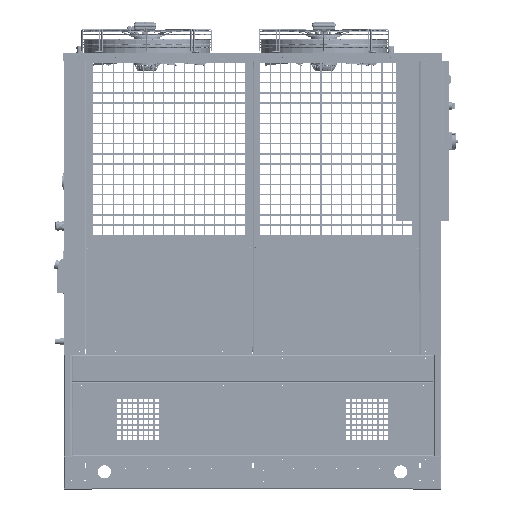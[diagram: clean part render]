
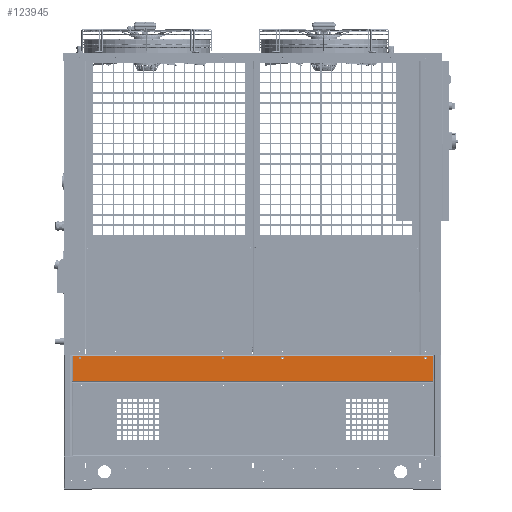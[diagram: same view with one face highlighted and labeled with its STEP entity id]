
A CAD part, top view. The second image highlights one B-rep face of the part: STEP entity #123945.
In plain terms, the highlighted planar face has unit normal (0, 0, 1).
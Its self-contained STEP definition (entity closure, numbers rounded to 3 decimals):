
#3781 = AXIS2_PLACEMENT_3D ( 'NONE', #127534, #210479, #498787 ) ;
#4337 = DIRECTION ( 'NONE',  ( 0., 0., -1. ) ) ;
#7189 = EDGE_LOOP ( 'NONE', ( #123940, #529535 ) ) ;
#11051 = DIRECTION ( 'NONE',  ( -1., 0., 0. ) ) ;
#11602 = AXIS2_PLACEMENT_3D ( 'NONE', #305359, #58367, #346837 ) ;
#19171 = LINE ( 'NONE', #241721, #238567 ) ;
#28122 = AXIS2_PLACEMENT_3D ( 'NONE', #193378, #481729, #234676 ) ;
#28653 = DIRECTION ( 'NONE',  ( 1., 0., 0. ) ) ;
#32923 = CARTESIAN_POINT ( 'NONE',  ( -672.75, -48.75, 0. ) ) ;
#39442 = CIRCLE ( 'NONE', #376383, 5.5 ) ;
#52229 = VERTEX_POINT ( 'NONE', #271154 ) ;
#55873 = DIRECTION ( 'NONE',  ( 0., 0., 1. ) ) ;
#58367 = DIRECTION ( 'NONE',  ( 0., 0., -1. ) ) ;
#64137 = CARTESIAN_POINT ( 'NONE',  ( 672.75, 48.75, 0. ) ) ;
#74275 = DIRECTION ( 'NONE',  ( 0., -1., 0. ) ) ;
#79091 = CARTESIAN_POINT ( 'NONE',  ( -105.45, 40.75, 0. ) ) ;
#84112 = VECTOR ( 'NONE', #74275, 1000. ) ;
#88283 = VERTEX_POINT ( 'NONE', #465907 ) ;
#89345 = CARTESIAN_POINT ( 'NONE',  ( -645.45, 40.75, 0. ) ) ;
#94653 = LINE ( 'NONE', #138600, #204396 ) ;
#97186 = DIRECTION ( 'NONE',  ( 1., 0., 0. ) ) ;
#99379 = VECTOR ( 'NONE', #518981, 1000. ) ;
#99690 = EDGE_CURVE ( 'NONE', #88283, #401067, #400863, .T. ) ;
#108089 = EDGE_CURVE ( 'NONE', #281543, #400166, #112318, .T. ) ;
#109916 = LINE ( 'NONE', #32923, #84112 ) ;
#112318 = LINE ( 'NONE', #394700, #99379 ) ;
#119007 = VERTEX_POINT ( 'NONE', #472501 ) ;
#122324 = ORIENTED_EDGE ( 'NONE', *, *, #415336, .T. ) ;
#123940 = ORIENTED_EDGE ( 'NONE', *, *, #151052, .F. ) ;
#123945 = ADVANCED_FACE ( 'NONE', ( #494189, #384510, #287845, #274843, #165227 ), #332956, .T. ) ;
#127534 = CARTESIAN_POINT ( 'NONE',  ( 0., 0., 0. ) ) ;
#127605 = EDGE_CURVE ( 'NONE', #119007, #276135, #201190, .T. ) ;
#130788 = DIRECTION ( 'NONE',  ( 1., 0., 0. ) ) ;
#138600 = CARTESIAN_POINT ( 'NONE',  ( -672.75, -45.75, 0. ) ) ;
#143281 = CARTESIAN_POINT ( 'NONE',  ( 672.75, -45.75, 0. ) ) ;
#151052 = EDGE_CURVE ( 'NONE', #179322, #227704, #350423, .T. ) ;
#161841 = CIRCLE ( 'NONE', #11602, 5.5 ) ;
#163209 = AXIS2_PLACEMENT_3D ( 'NONE', #504976, #258075, #11051 ) ;
#165227 = FACE_BOUND ( 'NONE', #423893, .T. ) ;
#170055 = CARTESIAN_POINT ( 'NONE',  ( -672.75, 48.75, 0. ) ) ;
#174387 = AXIS2_PLACEMENT_3D ( 'NONE', #302934, #55873, #344318 ) ;
#178620 = ORIENTED_EDGE ( 'NONE', *, *, #448896, .T. ) ;
#179322 = VERTEX_POINT ( 'NONE', #79091 ) ;
#179944 = CIRCLE ( 'NONE', #259349, 5.5 ) ;
#183899 = EDGE_CURVE ( 'NONE', #259309, #224060, #161841, .T. ) ;
#191635 = EDGE_LOOP ( 'NONE', ( #437443, #411037 ) ) ;
#193378 = CARTESIAN_POINT ( 'NONE',  ( -110.95, 40.75, 0. ) ) ;
#194939 = AXIS2_PLACEMENT_3D ( 'NONE', #89345, #377684, #130788 ) ;
#201190 = CIRCLE ( 'NONE', #194939, 5.5 ) ;
#204396 = VECTOR ( 'NONE', #97186, 1000. ) ;
#207960 = ORIENTED_EDGE ( 'NONE', *, *, #242896, .T. ) ;
#210479 = DIRECTION ( 'NONE',  ( 0., 0., 1. ) ) ;
#222707 = DIRECTION ( 'NONE',  ( 0., 0., -1. ) ) ;
#224060 = VERTEX_POINT ( 'NONE', #383220 ) ;
#226715 = CARTESIAN_POINT ( 'NONE',  ( -650.95, 40.75, 0. ) ) ;
#227704 = VERTEX_POINT ( 'NONE', #276605 ) ;
#228704 = AXIS2_PLACEMENT_3D ( 'NONE', #251323, #4337, #292783 ) ;
#229594 = EDGE_CURVE ( 'NONE', #52229, #281543, #94653, .T. ) ;
#234676 = DIRECTION ( 'NONE',  ( 1., 0., 0. ) ) ;
#235244 = EDGE_LOOP ( 'NONE', ( #122324, #248744, #486733, #178620 ) ) ;
#238567 = VECTOR ( 'NONE', #479806, 1000. ) ;
#241721 = CARTESIAN_POINT ( 'NONE',  ( 672.75, 48.75, 0. ) ) ;
#242896 = EDGE_CURVE ( 'NONE', #401067, #88283, #442367, .T. ) ;
#248744 = ORIENTED_EDGE ( 'NONE', *, *, #229594, .T. ) ;
#251323 = CARTESIAN_POINT ( 'NONE',  ( 110.95, 40.75, 0. ) ) ;
#255699 = EDGE_CURVE ( 'NONE', #227704, #179322, #445614, .T. ) ;
#258075 = DIRECTION ( 'NONE',  ( 0., 0., -1. ) ) ;
#259309 = VERTEX_POINT ( 'NONE', #457779 ) ;
#259349 = AXIS2_PLACEMENT_3D ( 'NONE', #469775, #222707, #511070 ) ;
#262172 = ORIENTED_EDGE ( 'NONE', *, *, #281161, .F. ) ;
#268560 = VERTEX_POINT ( 'NONE', #170055 ) ;
#271154 = CARTESIAN_POINT ( 'NONE',  ( -672.75, -45.75, 0. ) ) ;
#274843 = FACE_OUTER_BOUND ( 'NONE', #235244, .T. ) ;
#275621 = DIRECTION ( 'NONE',  ( 0., 0., 1. ) ) ;
#276135 = VERTEX_POINT ( 'NONE', #226715 ) ;
#276605 = CARTESIAN_POINT ( 'NONE',  ( -116.45, 40.75, 0. ) ) ;
#281161 = EDGE_CURVE ( 'NONE', #276135, #119007, #39442, .T. ) ;
#281543 = VERTEX_POINT ( 'NONE', #143281 ) ;
#287845 = FACE_BOUND ( 'NONE', #467595, .T. ) ;
#292783 = DIRECTION ( 'NONE',  ( -1., 0., 0. ) ) ;
#302934 = CARTESIAN_POINT ( 'NONE',  ( -110.95, 40.75, 0. ) ) ;
#305359 = CARTESIAN_POINT ( 'NONE',  ( 645.45, 40.75, 0. ) ) ;
#320420 = CARTESIAN_POINT ( 'NONE',  ( 105.45, 40.75, 0. ) ) ;
#332956 = PLANE ( 'NONE',  #3781 ) ;
#336810 = ORIENTED_EDGE ( 'NONE', *, *, #99690, .T. ) ;
#344318 = DIRECTION ( 'NONE',  ( 1., 0., 0. ) ) ;
#346837 = DIRECTION ( 'NONE',  ( -1., 0., 0. ) ) ;
#350423 = CIRCLE ( 'NONE', #28122, 5.5 ) ;
#376383 = AXIS2_PLACEMENT_3D ( 'NONE', #522545, #275621, #28653 ) ;
#377684 = DIRECTION ( 'NONE',  ( 0., 0., 1. ) ) ;
#383220 = CARTESIAN_POINT ( 'NONE',  ( 650.95, 40.75, 0. ) ) ;
#384510 = FACE_BOUND ( 'NONE', #7189, .T. ) ;
#394700 = CARTESIAN_POINT ( 'NONE',  ( 672.75, -48.75, 0. ) ) ;
#400166 = VERTEX_POINT ( 'NONE', #64137 ) ;
#400863 = CIRCLE ( 'NONE', #163209, 5.5 ) ;
#401067 = VERTEX_POINT ( 'NONE', #320420 ) ;
#406464 = ORIENTED_EDGE ( 'NONE', *, *, #127605, .F. ) ;
#411037 = ORIENTED_EDGE ( 'NONE', *, *, #183899, .T. ) ;
#415336 = EDGE_CURVE ( 'NONE', #268560, #52229, #109916, .T. ) ;
#423893 = EDGE_LOOP ( 'NONE', ( #336810, #207960 ) ) ;
#437443 = ORIENTED_EDGE ( 'NONE', *, *, #522814, .T. ) ;
#442367 = CIRCLE ( 'NONE', #228704, 5.5 ) ;
#445614 = CIRCLE ( 'NONE', #174387, 5.5 ) ;
#448896 = EDGE_CURVE ( 'NONE', #400166, #268560, #19171, .T. ) ;
#457779 = CARTESIAN_POINT ( 'NONE',  ( 639.95, 40.75, 0. ) ) ;
#465907 = CARTESIAN_POINT ( 'NONE',  ( 116.45, 40.75, 0. ) ) ;
#467595 = EDGE_LOOP ( 'NONE', ( #406464, #262172 ) ) ;
#469775 = CARTESIAN_POINT ( 'NONE',  ( 645.45, 40.75, 0. ) ) ;
#472501 = CARTESIAN_POINT ( 'NONE',  ( -639.95, 40.75, 0. ) ) ;
#479806 = DIRECTION ( 'NONE',  ( -1., 0., 0. ) ) ;
#481729 = DIRECTION ( 'NONE',  ( 0., 0., 1. ) ) ;
#486733 = ORIENTED_EDGE ( 'NONE', *, *, #108089, .T. ) ;
#494189 = FACE_BOUND ( 'NONE', #191635, .T. ) ;
#498787 = DIRECTION ( 'NONE',  ( 1., 0., 0. ) ) ;
#504976 = CARTESIAN_POINT ( 'NONE',  ( 110.95, 40.75, 0. ) ) ;
#511070 = DIRECTION ( 'NONE',  ( -1., 0., 0. ) ) ;
#518981 = DIRECTION ( 'NONE',  ( 0., 1., 0. ) ) ;
#522545 = CARTESIAN_POINT ( 'NONE',  ( -645.45, 40.75, 0. ) ) ;
#522814 = EDGE_CURVE ( 'NONE', #224060, #259309, #179944, .T. ) ;
#529535 = ORIENTED_EDGE ( 'NONE', *, *, #255699, .F. ) ;
